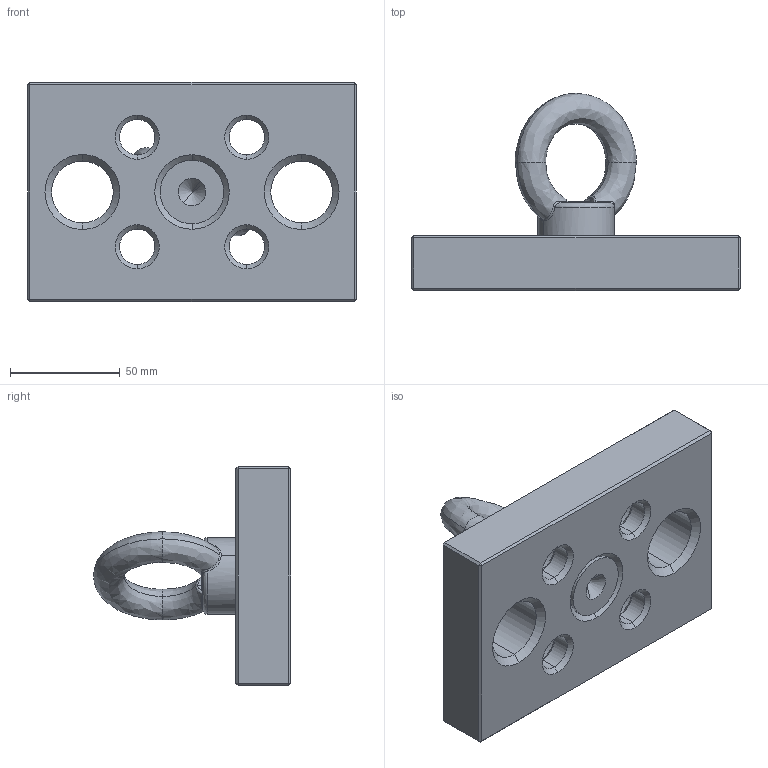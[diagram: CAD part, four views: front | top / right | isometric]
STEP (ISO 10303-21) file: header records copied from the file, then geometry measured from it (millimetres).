
FILE_DESCRIPTION (( 'STEP AP203' ), '1' );
FILE_NAME ('160830.step', '2014-08-11T17:00:30', ( 'User' ), ( '' ), 'SwSTEP 2.0', 'SolidWorks 2014', '' );
FILE_SCHEMA (( 'CONFIG_CONTROL_DESIGN' ));
Length unit declared in the file: millimetre
Products named in the file (4): 160830 Transportbügel_Platte; Ringmutter M16_DIN 582; M16x40 DIN 7991_Foto_Einfach; 160830
Assembly tree (3 placements, depth 2):
  160830
    160830 Transportbügel_Platte
    Ringmutter M16_DIN 582
    M16x40 DIN 7991_Foto_Einfach
Bounding box: 150 x 90 x 100 mm (x, y, z)
Volume: 336919.5 mm3; surface area: 60444.5 mm2
Topology: 3 solids, 3 shells, 135 faces, 296 edges, 167 vertices
Faces by surface type: cone 42, plane 35, cylinder 30, bspline 24, torus 4
Entity records: 5247 total; most frequent: CARTESIAN_POINT 1968, DIRECTION 610, ORIENTED_EDGE 588, EDGE_CURVE 294, AXIS2_PLACEMENT_3D 245, VERTEX_POINT 167, EDGE_LOOP 155, FACE_OUTER_BOUND 135
